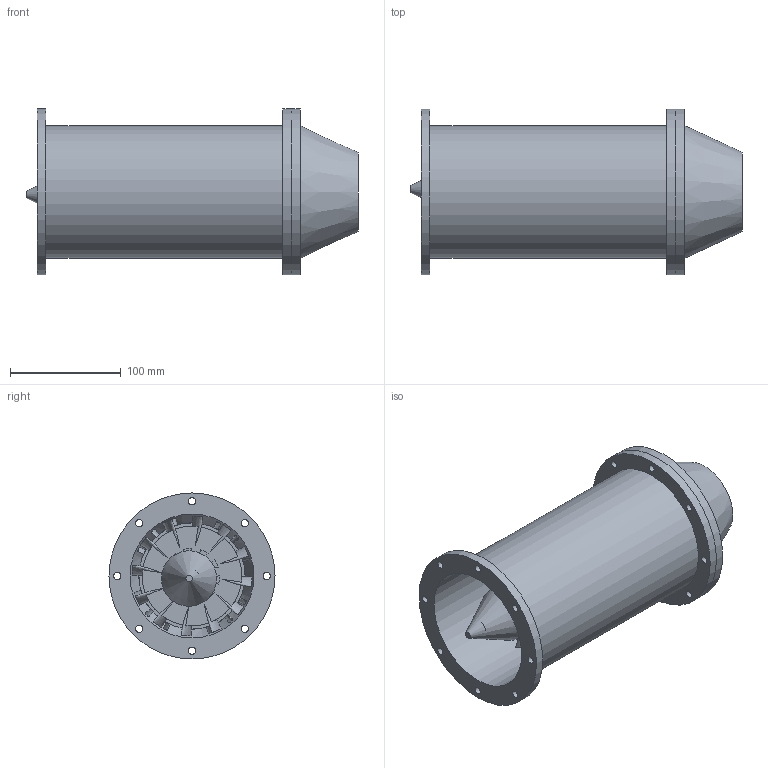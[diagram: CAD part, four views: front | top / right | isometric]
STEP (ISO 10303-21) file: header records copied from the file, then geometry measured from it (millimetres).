
FILE_DESCRIPTION(/* description */ (''),/* implementation_level */ '2;1');
FILE_NAME(/* name */ 'jet_engine_assembly.stp',/* time_stamp */ '2026-11-10T23:32:24+05:30',/* author */ ('BHAVAN KUMAR'),/* organization */ (''),/* preprocessor_version */ 'ST-DEVELOPER v20.2',/* originating_system */ 'Autodesk Inventor 2027',/* authorisation */ '');
FILE_SCHEMA (('AUTOMOTIVE_DESIGN { 1 0 10303 214 3 1 1 }'));
Length unit declared in the file: millimetre
Products named in the file (8): 00_engine_assembly; 01_casing; 02_shaft; 07_nose_cone; 03_compressor_rotor; 04_combustor_liner; 05_turbine_rotor; 06_nozzle
Assembly tree (7 placements, depth 2):
  00_engine_assembly
    01_casing
    02_shaft
    07_nose_cone
    03_compressor_rotor
    04_combustor_liner
    05_turbine_rotor
    06_nozzle
Bounding box: 300 x 150 x 150 mm (x, y, z)
Volume: 884167.5 mm3; surface area: 415007.5 mm2
Topology: 7 solids, 7 shells, 213 faces, 583 edges, 403 vertices
Faces by surface type: cylinder 102, plane 80, bspline 28, cone 3
Full cylindrical faces by diameter (mm): 5 x16, 6 x24, 6.5 x24, 12 x5, 56 x1, 60 x2, 92 x1, 96 x1, 112 x1, 114 x1, 120 x1, 150 x3
Entity records: 16598 total; most frequent: CARTESIAN_POINT 10829, ORIENTED_EDGE 1166, DIRECTION 994, EDGE_CURVE 583, VERTEX_POINT 403, AXIS2_PLACEMENT_3D 389, EDGE_LOOP 370, LINE 216
